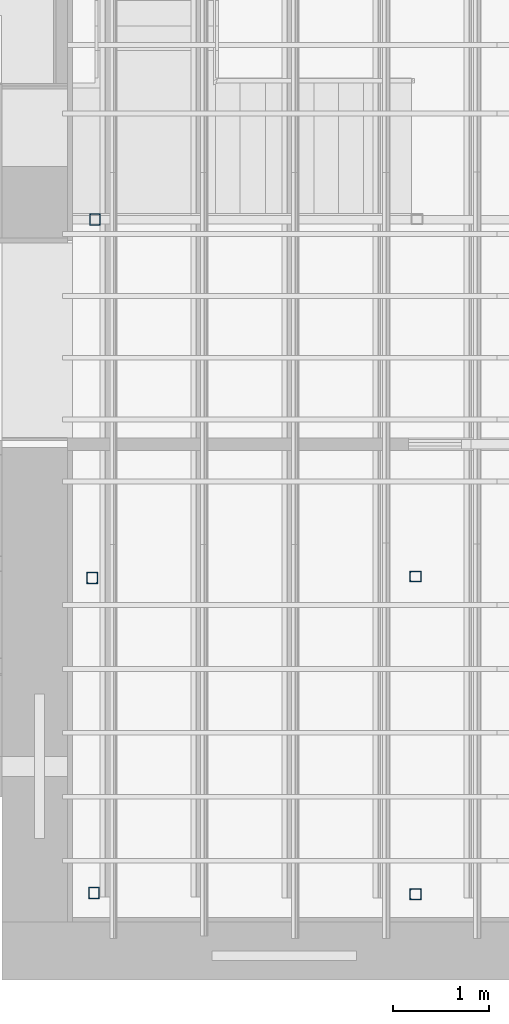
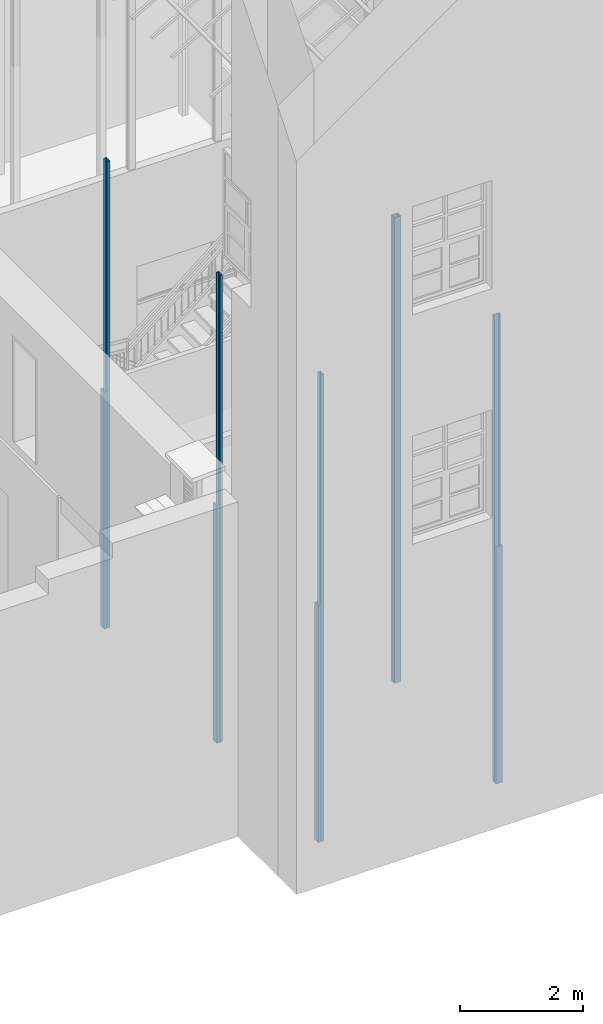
# One storey, part 1 of 75: 10 columns.
"""IFC2X3 building model written with IfcOpenShell, lengths in metres."""

from ifc_helpers import new_model, entity, si_unit, converted_unit, derived_unit, direction, frame, frame_2d, origin, place, context, subcontext, project, spatial, polyline, circle_curve, parameter, trimmed, segment, composite_curve, outline, extrude, source, transform, mapped, material, type_object, type_shapes, element, save


model = new_model("IFC2X3")

# Units and contexts
model_context = context("Model", 3, precision=1e-05, world=origin(), true_north=direction((6.12303176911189e-17, 1.0)))
body_context = subcontext(model_context, "Body", "Model", "MODEL_VIEW")
ifc_project = project(units=[si_unit("LENGTHUNIT", "METRE"), si_unit("AREAUNIT", "SQUARE_METRE"), si_unit("VOLUMEUNIT", "CUBIC_METRE"), converted_unit("PLANEANGLEUNIT", "DEGREE", entity("IfcRatioMeasure", 0.0174532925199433), si_unit("PLANEANGLEUNIT", "RADIAN"), dimensions=[0, 0, 0, 0, 0, 0, 0]), si_unit("MASSUNIT", "GRAM", prefix="KILO"), derived_unit("MASSDENSITYUNIT", [(si_unit("MASSUNIT", "GRAM", prefix="KILO"), 1), (si_unit("LENGTHUNIT", "METRE"), -3)]), derived_unit("MOMENTOFINERTIAUNIT", [(si_unit("LENGTHUNIT", "METRE"), 4)]), si_unit("TIMEUNIT", "SECOND"), si_unit("FREQUENCYUNIT", "HERTZ"), si_unit("THERMODYNAMICTEMPERATUREUNIT", "DEGREE_CELSIUS"), derived_unit("THERMALTRANSMITTANCEUNIT", [(si_unit("MASSUNIT", "GRAM", prefix="KILO"), 1), (si_unit("THERMODYNAMICTEMPERATUREUNIT", "KELVIN"), -1), (si_unit("TIMEUNIT", "SECOND"), -3)]), derived_unit("VOLUMETRICFLOWRATEUNIT", [(si_unit("LENGTHUNIT", "METRE"), 3), (si_unit("TIMEUNIT", "SECOND"), -1)]), si_unit("ELECTRICCURRENTUNIT", "AMPERE"), si_unit("ELECTRICVOLTAGEUNIT", "VOLT"), si_unit("POWERUNIT", "WATT"), si_unit("FORCEUNIT", "NEWTON", prefix="KILO"), si_unit("ILLUMINANCEUNIT", "LUX"), si_unit("LUMINOUSFLUXUNIT", "LUMEN"), si_unit("LUMINOUSINTENSITYUNIT", "CANDELA"), derived_unit("USERDEFINED", [(si_unit("MASSUNIT", "GRAM", prefix="KILO"), -1), (si_unit("LENGTHUNIT", "METRE"), -2), (si_unit("TIMEUNIT", "SECOND"), 3), (si_unit("LUMINOUSFLUXUNIT", "LUMEN"), 1)]), derived_unit("LINEARVELOCITYUNIT", [(si_unit("LENGTHUNIT", "METRE"), 1), (si_unit("TIMEUNIT", "SECOND"), -1)]), si_unit("PRESSUREUNIT", "PASCAL"), derived_unit("USERDEFINED", [(si_unit("LENGTHUNIT", "METRE"), -2), (si_unit("MASSUNIT", "GRAM", prefix="KILO"), 1), (si_unit("TIMEUNIT", "SECOND"), -2)]), derived_unit("LINEARFORCEUNIT", [(si_unit("MASSUNIT", "GRAM", prefix="KILO"), 1), (si_unit("LENGTHUNIT", "METRE"), 1), (si_unit("TIMEUNIT", "SECOND"), -2), (si_unit("LENGTHUNIT", "METRE"), -1)]), derived_unit("PLANARFORCEUNIT", [(si_unit("MASSUNIT", "GRAM", prefix="KILO"), 1), (si_unit("LENGTHUNIT", "METRE"), 1), (si_unit("TIMEUNIT", "SECOND"), -2), (si_unit("LENGTHUNIT", "METRE"), -2)])], contexts=[model_context])

# Site, building, storey
site_placement = place(None, origin())
site = spatial("IfcSite", under=ifc_project, at=site_placement, Name="Superficie", CompositionType="ELEMENT")
building_placement = place(site_placement, origin())
building = spatial("IfcBuilding", under=site, at=building_placement, Name="Telegestiones", CompositionType="ELEMENT")
storey_placement = place(building_placement, origin())
storey = spatial("IfcBuildingStorey", under=building, at=storey_placement, Name="Nivel 0_NPT", CompositionType="ELEMENT", Elevation=0.0)

# Columns
ifc_material = material(Name="Metal - Acero - 345 MPa")
column_type_1 = type_object("IfcColumnType", Name="UPE - Canales de ala paralela - Pilar:UPE 120", PredefinedType="COLUMN", material=ifc_material)
shared_shape_1 = source(origin(), body_context, "Body", "SweptSolid", [
    extrude(outline(composite_curve([segment(polyline([(-0.0599999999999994, -0.0264), (0.0600000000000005, -0.0264)]), True, "CONTINUOUS"), segment(polyline([(0.0600000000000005, -0.0264), (0.0600000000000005, 0.0286)]), True, "CONTINUOUS"), segment(polyline([(0.0600000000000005, 0.0286), (0.0539999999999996, 0.0286)]), True, "CONTINUOUS"), segment(polyline([(0.0539999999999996, 0.0286), (0.0539999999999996, -0.00939999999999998)]), True, "CONTINUOUS"), segment(trimmed(circle_curve(frame_2d((0.0419999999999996, -0.0094), x_axis=(1.0, 0.0)), 0.012), [parameter(270.0)], [parameter(0.0)], True, "PARAMETER"), False, "CONTINUOUS"), segment(polyline([(0.0419999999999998, -0.0214), (-0.0420000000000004, -0.0214)]), True, "CONTINUOUS"), segment(trimmed(circle_curve(frame_2d((-0.0420000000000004, -0.00940000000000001), x_axis=(0.0, -1.0)), 0.012), [parameter(270.0)], [parameter(0.0)], True, "PARAMETER"), False, "CONTINUOUS"), segment(polyline([(-0.0540000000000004, -0.0094), (-0.0540000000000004, 0.0286)]), True, "CONTINUOUS"), segment(polyline([(-0.0540000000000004, 0.0286), (-0.0599999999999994, 0.0286)]), True, "CONTINUOUS"), segment(polyline([(-0.0599999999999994, 0.0286), (-0.0599999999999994, -0.0264)]), True, "CONTINUOUS")], self_intersect=False)), frame((0.00660000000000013, 0.0, 0.0), z_axis=(0.0, 0.0, 1.0), x_axis=(0.0, -1.0, 0.0)), (0.0, 0.0, 1.0), 9.27),
])
type_shapes(column_type_1, [shared_shape_1])
column_1_placement = place(storey_placement, frame((9.64781262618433, -5.48119277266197, 0.0), z_axis=(0.0, 0.0, 1.0), x_axis=(0.0, -1.0, 0.0)))
element("IfcColumn", 1, at=column_1_placement, inside=storey, type_object=column_type_1, Name="UPE - Canales de ala paralela - Pilar:UPE 120", ObjectType="UPE - Canales de ala paralela - Pilar:UPE 120", context=body_context, shape_type="MappedRepresentation", body=[
    mapped(shared_shape_1, transform((0.0, 0.0, 0.0), scale=1.0)),
])
column_type_2 = type_object("IfcColumnType", Name="UPE - Canales de ala paralela - Pilar:UPE 120", PredefinedType="COLUMN", material=ifc_material)
shared_shape_2 = source(origin(), body_context, "Body", "SweptSolid", [
    extrude(outline(composite_curve([segment(polyline([(-0.0600000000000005, -0.0264), (0.0599999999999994, -0.0264)]), True, "CONTINUOUS"), segment(polyline([(0.0599999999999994, -0.0264), (0.0599999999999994, 0.0286)]), True, "CONTINUOUS"), segment(polyline([(0.0599999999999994, 0.0286), (0.0540000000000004, 0.0286)]), True, "CONTINUOUS"), segment(polyline([(0.0540000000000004, 0.0286), (0.0540000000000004, -0.00939999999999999)]), True, "CONTINUOUS"), segment(trimmed(circle_curve(frame_2d((0.0420000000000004, -0.00939999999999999), x_axis=(1.0, 0.0)), 0.012), [parameter(270.0)], [parameter(0.0)], True, "PARAMETER"), False, "CONTINUOUS"), segment(polyline([(0.0420000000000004, -0.0214), (-0.0419999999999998, -0.0214)]), True, "CONTINUOUS"), segment(trimmed(circle_curve(frame_2d((-0.0419999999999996, -0.00939999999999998), x_axis=(0.0, -1.0)), 0.012), [parameter(270.0)], [parameter(0.0)], True, "PARAMETER"), False, "CONTINUOUS"), segment(polyline([(-0.0539999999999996, -0.00939999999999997), (-0.0539999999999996, 0.0286)]), True, "CONTINUOUS"), segment(polyline([(-0.0539999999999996, 0.0286), (-0.0600000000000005, 0.0286)]), True, "CONTINUOUS"), segment(polyline([(-0.0600000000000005, 0.0286), (-0.0600000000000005, -0.0264)]), True, "CONTINUOUS")], self_intersect=False)), frame((0.00660000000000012, 0.0, 0.0), z_axis=(0.0, 0.0, 1.0), x_axis=(0.0, -1.0, 0.0)), (0.0, 0.0, 1.0), 9.27),
])
type_shapes(column_type_2, [shared_shape_2])
for number, where, z_axis, x_axis, name in (
    (2, (6.3540126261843, 1.48459406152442, 0.0), (0.0, 0.0, 1.0), (-1.0, 0.0, 0.0), "UPE - Canales de ala paralela - Pilar:UPE 120"),
    (3, (6.32601262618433, -2.23357793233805, 0.0), (0.0, 0.0, 1.0), (-1.0, 0.0, 0.0), "UPE - Canales de ala paralela - Pilar:UPE 120"),
    (4, (6.34501262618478, -5.50257793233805, 0.0), (0.0, 0.0, 1.0), (-1.0, 0.0, 0.0), "UPE - Canales de ala paralela - Pilar:UPE 120"),
):
    element("IfcColumn", number, at=place(storey_placement, frame(where, z_axis=z_axis, x_axis=x_axis)), inside=storey, type_object=column_type_2, Name=name, ObjectType="UPE - Canales de ala paralela - Pilar:UPE 120", context=body_context, shape_type="MappedRepresentation", body=[
        mapped(shared_shape_2, transform((0.0, 0.0, 0.0), scale=1.0)),
    ])
column_type_3 = type_object("IfcColumnType", Name="UPE - Canales de ala paralela - Pilar:UPE 120", PredefinedType="COLUMN", material=ifc_material)
shared_shape_3 = source(origin(), body_context, "Body", "SweptSolid", [
    extrude(outline(composite_curve([segment(polyline([(-0.0599999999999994, -0.0264), (0.0600000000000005, -0.0264)]), True, "CONTINUOUS"), segment(polyline([(0.0600000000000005, -0.0264), (0.0600000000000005, 0.0286)]), True, "CONTINUOUS"), segment(polyline([(0.0600000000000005, 0.0286), (0.0539999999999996, 0.0286)]), True, "CONTINUOUS"), segment(polyline([(0.0539999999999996, 0.0286), (0.0539999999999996, -0.00939999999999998)]), True, "CONTINUOUS"), segment(trimmed(circle_curve(frame_2d((0.0419999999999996, -0.0094), x_axis=(1.0, 0.0)), 0.012), [parameter(270.0)], [parameter(0.0)], True, "PARAMETER"), False, "CONTINUOUS"), segment(polyline([(0.0419999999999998, -0.0214), (-0.0420000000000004, -0.0214)]), True, "CONTINUOUS"), segment(trimmed(circle_curve(frame_2d((-0.0420000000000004, -0.00940000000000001), x_axis=(0.0, -1.0)), 0.012), [parameter(270.0)], [parameter(0.0)], True, "PARAMETER"), False, "CONTINUOUS"), segment(polyline([(-0.0540000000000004, -0.0094), (-0.0540000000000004, 0.0286)]), True, "CONTINUOUS"), segment(polyline([(-0.0540000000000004, 0.0286), (-0.0599999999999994, 0.0286)]), True, "CONTINUOUS"), segment(polyline([(-0.0599999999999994, 0.0286), (-0.0599999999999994, -0.0264)]), True, "CONTINUOUS")], self_intersect=False)), frame((0.00660000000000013, 0.0, 0.0), z_axis=(0.0, 0.0, 1.0), x_axis=(0.0, -1.0, 0.0)), (0.0, 0.0, 1.0), 9.25),
])
type_shapes(column_type_3, [shared_shape_3])
column_2_placement = place(storey_placement, frame((9.64781262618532, -2.25359277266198, 0.0), z_axis=(0.0, 0.0, 1.0), x_axis=(0.0, 1.0, 0.0)))
element("IfcColumn", 5, at=column_2_placement, inside=storey, type_object=column_type_3, Name="UPE - Canales de ala paralela - Pilar:UPE 120", ObjectType="UPE - Canales de ala paralela - Pilar:UPE 120", context=body_context, shape_type="MappedRepresentation", body=[
    mapped(shared_shape_3, transform((0.0, 0.0, 0.0), scale=1.0)),
])
column_type_4 = type_object("IfcColumnType", Name="UPE - Canales de ala paralela - Pilar:UPE 120", PredefinedType="COLUMN", material=ifc_material)
shared_shape_4 = source(origin(), body_context, "Body", "SweptSolid", [
    extrude(outline(composite_curve([segment(polyline([(-0.0600000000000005, -0.0264), (0.0599999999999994, -0.0264)]), True, "CONTINUOUS"), segment(polyline([(0.0599999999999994, -0.0264), (0.0599999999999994, 0.0286)]), True, "CONTINUOUS"), segment(polyline([(0.0599999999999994, 0.0286), (0.0540000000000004, 0.0286)]), True, "CONTINUOUS"), segment(polyline([(0.0540000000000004, 0.0286), (0.0540000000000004, -0.00939999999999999)]), True, "CONTINUOUS"), segment(trimmed(circle_curve(frame_2d((0.0420000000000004, -0.00939999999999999), x_axis=(1.0, 0.0)), 0.012), [parameter(270.0)], [parameter(0.0)], True, "PARAMETER"), False, "CONTINUOUS"), segment(polyline([(0.0420000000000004, -0.0214), (-0.0419999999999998, -0.0214)]), True, "CONTINUOUS"), segment(trimmed(circle_curve(frame_2d((-0.0419999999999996, -0.00939999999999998), x_axis=(0.0, -1.0)), 0.012), [parameter(270.0)], [parameter(0.0)], True, "PARAMETER"), False, "CONTINUOUS"), segment(polyline([(-0.0539999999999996, -0.00939999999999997), (-0.0539999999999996, 0.0286)]), True, "CONTINUOUS"), segment(polyline([(-0.0539999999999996, 0.0286), (-0.0600000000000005, 0.0286)]), True, "CONTINUOUS"), segment(polyline([(-0.0600000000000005, 0.0286), (-0.0600000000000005, -0.0264)]), True, "CONTINUOUS")], self_intersect=False)), frame((0.00660000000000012, 0.0, 0.0), z_axis=(0.0, 0.0, 1.0), x_axis=(0.0, -1.0, 0.0)), (0.0, 0.0, 1.0), 4.71),
])
type_shapes(column_type_4, [shared_shape_4])
column_3_placement = place(storey_placement, frame((9.64781262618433, -5.55159277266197, 0.0), z_axis=(0.0, 0.0, 1.0), x_axis=(0.0, 1.0, 0.0)))
element("IfcColumn", 6, at=column_3_placement, inside=storey, type_object=column_type_4, Name="UPE - Canales de ala paralela - Pilar:UPE 120", ObjectType="UPE - Canales de ala paralela - Pilar:UPE 120", context=body_context, shape_type="MappedRepresentation", body=[
    mapped(shared_shape_4, transform((0.0, 0.0, 0.0), scale=1.0)),
])
column_type_5 = type_object("IfcColumnType", Name="UPE - Canales de ala paralela - Pilar:UPE 120", PredefinedType="COLUMN", material=ifc_material)
shared_shape_5 = source(origin(), body_context, "Body", "SweptSolid", [
    extrude(outline(composite_curve([segment(polyline([(-0.0599999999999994, -0.0264), (0.0600000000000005, -0.0264)]), True, "CONTINUOUS"), segment(polyline([(0.0600000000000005, -0.0264), (0.0600000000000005, 0.0286)]), True, "CONTINUOUS"), segment(polyline([(0.0600000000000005, 0.0286), (0.0539999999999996, 0.0286)]), True, "CONTINUOUS"), segment(polyline([(0.0539999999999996, 0.0286), (0.0539999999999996, -0.00939999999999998)]), True, "CONTINUOUS"), segment(trimmed(circle_curve(frame_2d((0.0419999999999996, -0.0094), x_axis=(1.0, 0.0)), 0.012), [parameter(270.0)], [parameter(0.0)], True, "PARAMETER"), False, "CONTINUOUS"), segment(polyline([(0.0419999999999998, -0.0214), (-0.0420000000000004, -0.0214)]), True, "CONTINUOUS"), segment(trimmed(circle_curve(frame_2d((-0.0420000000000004, -0.00940000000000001), x_axis=(0.0, -1.0)), 0.012), [parameter(270.0)], [parameter(0.0)], True, "PARAMETER"), False, "CONTINUOUS"), segment(polyline([(-0.0540000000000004, -0.0094), (-0.0540000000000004, 0.0286)]), True, "CONTINUOUS"), segment(polyline([(-0.0540000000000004, 0.0286), (-0.0599999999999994, 0.0286)]), True, "CONTINUOUS"), segment(polyline([(-0.0599999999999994, 0.0286), (-0.0599999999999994, -0.0264)]), True, "CONTINUOUS")], self_intersect=False)), frame((0.00660000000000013, 0.0, 0.0), z_axis=(0.0, 0.0, 1.0), x_axis=(0.0, -1.0, 0.0)), (0.0, 0.0, 1.0), 4.71),
])
type_shapes(column_type_5, [shared_shape_5])
for number, where, name in (
    (7, (6.2836126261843, 1.48459406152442, 0.0), "UPE - Canales de ala paralela - Pilar:UPE 120"),
    (8, (6.25561262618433, -2.23357793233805, 0.0), "UPE - Canales de ala paralela - Pilar:UPE 120"),
    (9, (6.27461262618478, -5.50257793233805, 0.0), "UPE - Canales de ala paralela - Pilar:UPE 120"),
):
    element("IfcColumn", number, at=place(storey_placement, frame(where)), inside=storey, type_object=column_type_5, Name=name, ObjectType="UPE - Canales de ala paralela - Pilar:UPE 120", context=body_context, shape_type="MappedRepresentation", body=[
        mapped(shared_shape_5, transform((0.0, 0.0, 0.0), scale=1.0)),
    ])
column_type_6 = type_object("IfcColumnType", Name="UPE - Canales de ala paralela - Pilar:UPE 120", PredefinedType="COLUMN", material=ifc_material)
shared_shape_6 = source(origin(), body_context, "Body", "SweptSolid", [
    extrude(outline(composite_curve([segment(polyline([(-0.0600000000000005, -0.0264), (0.0599999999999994, -0.0264)]), True, "CONTINUOUS"), segment(polyline([(0.0599999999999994, -0.0264), (0.0599999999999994, 0.0286)]), True, "CONTINUOUS"), segment(polyline([(0.0599999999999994, 0.0286), (0.0540000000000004, 0.0286)]), True, "CONTINUOUS"), segment(polyline([(0.0540000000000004, 0.0286), (0.0540000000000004, -0.00939999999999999)]), True, "CONTINUOUS"), segment(trimmed(circle_curve(frame_2d((0.0420000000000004, -0.00939999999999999), x_axis=(1.0, 0.0)), 0.012), [parameter(270.0)], [parameter(0.0)], True, "PARAMETER"), False, "CONTINUOUS"), segment(polyline([(0.0420000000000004, -0.0214), (-0.0419999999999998, -0.0214)]), True, "CONTINUOUS"), segment(trimmed(circle_curve(frame_2d((-0.0419999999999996, -0.00939999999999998), x_axis=(0.0, -1.0)), 0.012), [parameter(270.0)], [parameter(0.0)], True, "PARAMETER"), False, "CONTINUOUS"), segment(polyline([(-0.0539999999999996, -0.00939999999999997), (-0.0539999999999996, 0.0286)]), True, "CONTINUOUS"), segment(polyline([(-0.0539999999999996, 0.0286), (-0.0600000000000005, 0.0286)]), True, "CONTINUOUS"), segment(polyline([(-0.0600000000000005, 0.0286), (-0.0600000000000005, -0.0264)]), True, "CONTINUOUS")], self_intersect=False)), frame((0.00660000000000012, 0.0, 0.0), z_axis=(0.0, 0.0, 1.0), x_axis=(0.0, -1.0, 0.0)), (0.0, 0.0, 1.0), 9.25),
])
type_shapes(column_type_6, [shared_shape_6])
column_4_placement = place(storey_placement, frame((9.64781262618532, -2.18319277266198, 0.0), z_axis=(0.0, 0.0, 1.0), x_axis=(0.0, -1.0, 0.0)))
element("IfcColumn", 10, at=column_4_placement, inside=storey, type_object=column_type_6, Name="UPE - Canales de ala paralela - Pilar:UPE 120", ObjectType="UPE - Canales de ala paralela - Pilar:UPE 120", context=body_context, shape_type="MappedRepresentation", body=[
    mapped(shared_shape_6, transform((0.0, 0.0, 0.0), scale=1.0)),
])

save(model, "model.ifc")
